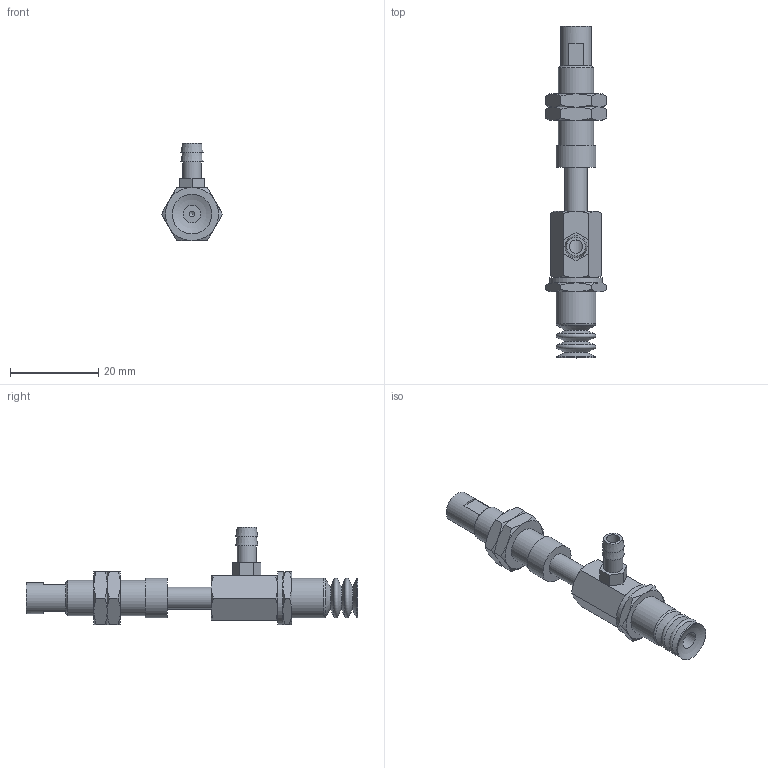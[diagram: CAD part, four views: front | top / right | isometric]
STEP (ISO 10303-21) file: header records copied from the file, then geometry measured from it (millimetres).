
FILE_DESCRIPTION(('STEP AP203'),'1');
FILE_NAME('-T.stp','2025-04-03T06:28:49',(' '),(' '),'Spatial InterOp 3D',' ',' ');
FILE_SCHEMA(('CONFIG_CONTROL_DESIGN'));
Length unit declared in the file: millimetre
Products named in the file (8): BNABPCYS-10-10-※-T; Adapter_napc-10-T; Connector_s-10-10; Nut napc_s-10-10; NAPCTS-10-10-FBODY; NAPCTS-10-10-MBODY; BPCG-10-※; T
Assembly tree (8 placements, depth 2):
  BNABPCYS-10-10-※-T
    Adapter_napc-10-T
    Connector_s-10-10
    Nut napc_s-10-10  x2
    NAPCTS-10-10-FBODY
    NAPCTS-10-10-MBODY
    BPCG-10-※
    T
Bounding box: 13.86 x 75.2 x 22 mm (x, y, z)
Volume: 4656.4 mm3; surface area: 5328.5 mm2
Topology: 8 solids, 8 shells, 177 faces, 364 edges, 216 vertices
Faces by surface type: cone 72, plane 71, cylinder 24, torus 8, sphere 2
Full cylindrical faces by diameter (mm): 1.25 x1, 3 x1, 4 x1, 4.134 x3, 4.3 x1, 5 x9, 7 x1, 7.188 x2, 8 x1, 9 x3, 12 x1
Entity records: 4506 total; most frequent: CARTESIAN_POINT 1140, DIRECTION 626, ORIENTED_EDGE 516, AXIS2_PLACEMENT_3D 281, EDGE_CURVE 258, EDGE_LOOP 232, FACE_OUTER_BOUND 187, VERTEX_POINT 185
